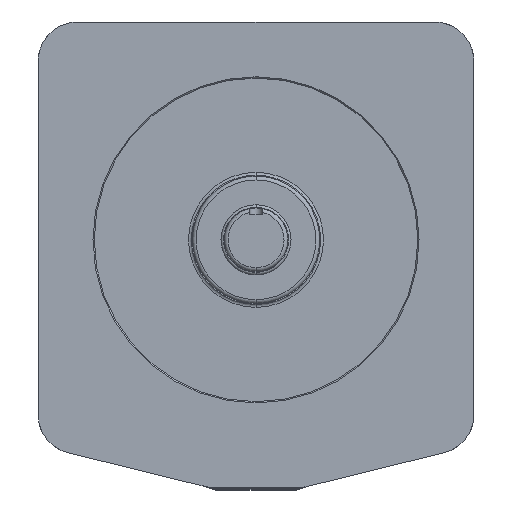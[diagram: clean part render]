
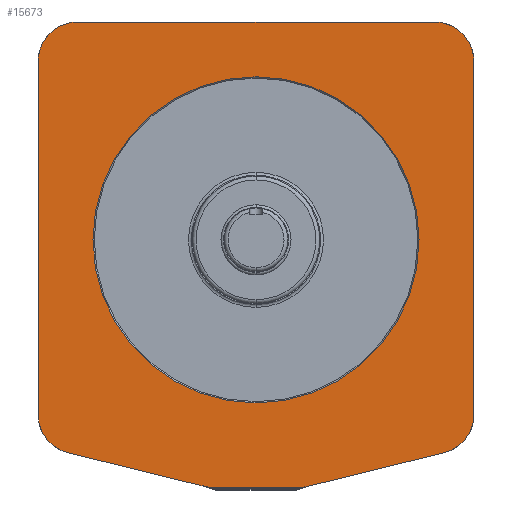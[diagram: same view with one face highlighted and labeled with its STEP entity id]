
A CAD part, top view. The second image highlights one B-rep face of the part: STEP entity #15673.
In plain terms, the highlighted planar face has unit normal (0, 0, 1).
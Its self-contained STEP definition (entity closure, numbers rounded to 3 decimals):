
#262 = CARTESIAN_POINT ( 'NONE',  ( 222., 140.013, 387.5 ) ) ;
#902 = CARTESIAN_POINT ( 'NONE',  ( 191., -170.987, 387.5 ) ) ;
#999 = ORIENTED_EDGE ( 'NONE', *, *, #72728, .F. ) ;
#1435 = LINE ( 'NONE', #30028, #26147 ) ;
#2912 = CARTESIAN_POINT ( 'NONE',  ( -116.195, -147.382, 387.5 ) ) ;
#3344 = CARTESIAN_POINT ( 'NONE',  ( -86.084, 171.013, 387.5 ) ) ;
#3465 = AXIS2_PLACEMENT_3D ( 'NONE', #57867, #86534, #22227 ) ;
#3542 = CIRCLE ( 'NONE', #55955, 31. ) ;
#3881 = VERTEX_POINT ( 'NONE', #62867 ) ;
#4702 = EDGE_CURVE ( 'NONE', #77998, #3881, #84503, .T. ) ;
#5234 = VERTEX_POINT ( 'NONE', #65995 ) ;
#5273 = ORIENTED_EDGE ( 'NONE', *, *, #35435, .F. ) ;
#5525 = ORIENTED_EDGE ( 'NONE', *, *, #43616, .F. ) ;
#7365 = VERTEX_POINT ( 'NONE', #57788 ) ;
#7783 = DIRECTION ( 'NONE',  ( -0.971, -0.239, 0. ) ) ;
#7963 = DIRECTION ( 'NONE',  ( 0., 0., -1. ) ) ;
#8113 = CIRCLE ( 'NONE', #60547, 20. ) ;
#8730 = VERTEX_POINT ( 'NONE', #46924 ) ;
#8940 = CARTESIAN_POINT ( 'NONE',  ( -86.084, 171.013, 387.5 ) ) ;
#9169 = DIRECTION ( 'NONE',  ( 0., 0., 1. ) ) ;
#9850 = ORIENTED_EDGE ( 'NONE', *, *, #10561, .F. ) ;
#10561 = EDGE_CURVE ( 'NONE', #51918, #15587, #51354, .T. ) ;
#10816 = VECTOR ( 'NONE', #83045, 1000. ) ;
#13037 = ORIENTED_EDGE ( 'NONE', *, *, #55356, .F. ) ;
#13524 = ORIENTED_EDGE ( 'NONE', *, *, #48154, .F. ) ;
#15050 = DIRECTION ( 'NONE',  ( 1., 0., 0. ) ) ;
#15587 = VERTEX_POINT ( 'NONE', #55071 ) ;
#15673 = ADVANCED_FACE ( 'NONE', ( #57742, #86415 ), #22105, .T. ) ;
#15754 = DIRECTION ( 'NONE',  ( 0., -1., 0. ) ) ;
#16426 = EDGE_CURVE ( 'NONE', #7365, #8730, #8113, .T. ) ;
#16647 = DIRECTION ( 'NONE',  ( 0., 0., -1. ) ) ;
#18089 = CIRCLE ( 'NONE', #70495, 31. ) ;
#19297 = VERTEX_POINT ( 'NONE', #59313 ) ;
#20192 = CARTESIAN_POINT ( 'NONE',  ( 191., -170.987, 387.5 ) ) ;
#20325 = VECTOR ( 'NONE', #15754, 1000. ) ;
#22105 = PLANE ( 'NONE',  #34951 ) ;
#22206 = VERTEX_POINT ( 'NONE', #79230 ) ;
#22227 = DIRECTION ( 'NONE',  ( 0., 1., 0. ) ) ;
#22628 = DIRECTION ( 'NONE',  ( 0., 0., 1. ) ) ;
#23119 = AXIS2_PLACEMENT_3D ( 'NONE', #89398, #25074, #53689 ) ;
#25074 = DIRECTION ( 'NONE',  ( 0., 0., -1. ) ) ;
#25507 = EDGE_CURVE ( 'NONE', #19297, #5234, #78403, .T. ) ;
#25753 = LINE ( 'NONE', #54366, #10816 ) ;
#25764 = EDGE_CURVE ( 'NONE', #3881, #45777, #3542, .T. ) ;
#25849 = CARTESIAN_POINT ( 'NONE',  ( -86.09, -139.987, 387.5 ) ) ;
#26147 = VECTOR ( 'NONE', #58644, 1000. ) ;
#29067 = LINE ( 'NONE', #57703, #66176 ) ;
#29606 = EDGE_LOOP ( 'NONE', ( #13524, #36924 ) ) ;
#30028 = CARTESIAN_POINT ( 'NONE',  ( -143.149, 37.658, 387.5 ) ) ;
#32455 = VECTOR ( 'NONE', #92316, 1000. ) ;
#33547 = AXIS2_PLACEMENT_3D ( 'NONE', #73447, #9169, #37785 ) ;
#34294 = CARTESIAN_POINT ( 'NONE',  ( -143.149, 37.658, 387.5 ) ) ;
#34951 = AXIS2_PLACEMENT_3D ( 'NONE', #50709, #79343, #15050 ) ;
#35035 = LINE ( 'NONE', #63642, #32455 ) ;
#35435 = EDGE_CURVE ( 'NONE', #35641, #87688, #63553, .T. ) ;
#35633 = ORIENTED_EDGE ( 'NONE', *, *, #25764, .F. ) ;
#35641 = VERTEX_POINT ( 'NONE', #62862 ) ;
#36606 = DIRECTION ( 'NONE',  ( 1., 0., 0. ) ) ;
#36924 = ORIENTED_EDGE ( 'NONE', *, *, #25507, .F. ) ;
#37551 = DIRECTION ( 'NONE',  ( 1., 0., 0. ) ) ;
#37785 = DIRECTION ( 'NONE',  ( -1., 0., 0. ) ) ;
#37951 = AXIS2_PLACEMENT_3D ( 'NONE', #86948, #22628, #51232 ) ;
#37984 = EDGE_CURVE ( 'NONE', #15587, #77998, #18089, .T. ) ;
#38278 = ORIENTED_EDGE ( 'NONE', *, *, #49509, .F. ) ;
#38964 = ORIENTED_EDGE ( 'NONE', *, *, #67126, .F. ) ;
#42740 = CIRCLE ( 'NONE', #54718, 20. ) ;
#43444 = CARTESIAN_POINT ( 'NONE',  ( -123.727, -32.887, 387.5 ) ) ;
#43616 = EDGE_CURVE ( 'NONE', #87688, #85910, #73213, .T. ) ;
#43892 = CIRCLE ( 'NONE', #3465, 31. ) ;
#45231 = DIRECTION ( 'NONE',  ( -1., 0., 0. ) ) ;
#45777 = VERTEX_POINT ( 'NONE', #2912 ) ;
#46402 = VECTOR ( 'NONE', #37551, 1000. ) ;
#46924 = CARTESIAN_POINT ( 'NONE',  ( -143.727, -32.887, 387.5 ) ) ;
#48154 = EDGE_CURVE ( 'NONE', #5234, #19297, #73993, .T. ) ;
#48807 = DIRECTION ( 'NONE',  ( -1., 0., 0. ) ) ;
#49509 = EDGE_CURVE ( 'NONE', #82472, #22206, #42740, .T. ) ;
#50709 = CARTESIAN_POINT ( 'NONE',  ( 191., -139.987, 387.5 ) ) ;
#51232 = DIRECTION ( 'NONE',  ( -1., 0., 0. ) ) ;
#51354 = LINE ( 'NONE', #80015, #20325 ) ;
#51918 = VERTEX_POINT ( 'NONE', #262 ) ;
#53689 = DIRECTION ( 'NONE',  ( -0.971, 0.239, 0. ) ) ;
#54366 = CARTESIAN_POINT ( 'NONE',  ( -143.727, -32.887, 387.5 ) ) ;
#54475 = DIRECTION ( 'NONE',  ( 0., 0., -1. ) ) ;
#54718 = AXIS2_PLACEMENT_3D ( 'NONE', #80944, #16647, #45231 ) ;
#55071 = CARTESIAN_POINT ( 'NONE',  ( 222., -139.987, 387.5 ) ) ;
#55356 = EDGE_CURVE ( 'NONE', #87825, #35641, #1435, .T. ) ;
#55955 = AXIS2_PLACEMENT_3D ( 'NONE', #25849, #54475, #83147 ) ;
#57703 = CARTESIAN_POINT ( 'NONE',  ( -116.195, -147.382, 387.5 ) ) ;
#57742 = FACE_OUTER_BOUND ( 'NONE', #86053, .T. ) ;
#57788 = CARTESIAN_POINT ( 'NONE',  ( -143.149, -37.658, 387.5 ) ) ;
#57867 = CARTESIAN_POINT ( 'NONE',  ( 191., 140.013, 387.5 ) ) ;
#58644 = DIRECTION ( 'NONE',  ( 0.239, 0.971, 0. ) ) ;
#59313 = CARTESIAN_POINT ( 'NONE',  ( -77., 0., 387.5 ) ) ;
#60112 = EDGE_CURVE ( 'NONE', #45777, #7365, #29067, .T. ) ;
#60547 = AXIS2_PLACEMENT_3D ( 'NONE', #43444, #72055, #7783 ) ;
#62862 = CARTESIAN_POINT ( 'NONE',  ( -116.189, 147.409, 387.5 ) ) ;
#62867 = CARTESIAN_POINT ( 'NONE',  ( -86.09, -170.987, 387.5 ) ) ;
#63553 = CIRCLE ( 'NONE', #23119, 31. ) ;
#63642 = CARTESIAN_POINT ( 'NONE',  ( -143.149, 37.658, 387.5 ) ) ;
#65961 = VECTOR ( 'NONE', #48807, 1000. ) ;
#65995 = CARTESIAN_POINT ( 'NONE',  ( 179., 0., 387.5 ) ) ;
#66176 = VECTOR ( 'NONE', #86377, 1000. ) ;
#66255 = EDGE_CURVE ( 'NONE', #8730, #82472, #25753, .T. ) ;
#67126 = EDGE_CURVE ( 'NONE', #85910, #51918, #43892, .T. ) ;
#70495 = AXIS2_PLACEMENT_3D ( 'NONE', #72233, #7963, #36606 ) ;
#71637 = ORIENTED_EDGE ( 'NONE', *, *, #37984, .F. ) ;
#71661 = ORIENTED_EDGE ( 'NONE', *, *, #4702, .F. ) ;
#72055 = DIRECTION ( 'NONE',  ( 0., 0., -1. ) ) ;
#72233 = CARTESIAN_POINT ( 'NONE',  ( 191., -139.987, 387.5 ) ) ;
#72728 = EDGE_CURVE ( 'NONE', #22206, #87825, #35035, .T. ) ;
#73213 = LINE ( 'NONE', #8940, #46402 ) ;
#73447 = CARTESIAN_POINT ( 'NONE',  ( 51., 0., 387.5 ) ) ;
#73993 = CIRCLE ( 'NONE', #33547, 128. ) ;
#77998 = VERTEX_POINT ( 'NONE', #902 ) ;
#78403 = CIRCLE ( 'NONE', #37951, 128. ) ;
#79230 = CARTESIAN_POINT ( 'NONE',  ( -143.149, 37.658, 387.5 ) ) ;
#79343 = DIRECTION ( 'NONE',  ( 0., 0., 1. ) ) ;
#80015 = CARTESIAN_POINT ( 'NONE',  ( 222., 140.013, 387.5 ) ) ;
#80090 = CARTESIAN_POINT ( 'NONE',  ( 191., 171.013, 387.5 ) ) ;
#80565 = ORIENTED_EDGE ( 'NONE', *, *, #66255, .F. ) ;
#80944 = CARTESIAN_POINT ( 'NONE',  ( -123.727, 32.887, 387.5 ) ) ;
#81864 = CARTESIAN_POINT ( 'NONE',  ( -143.727, 32.887, 387.5 ) ) ;
#82091 = ORIENTED_EDGE ( 'NONE', *, *, #60112, .F. ) ;
#82472 = VERTEX_POINT ( 'NONE', #81864 ) ;
#83045 = DIRECTION ( 'NONE',  ( 0., 1., 0. ) ) ;
#83147 = DIRECTION ( 'NONE',  ( 0., -1., 0. ) ) ;
#84503 = LINE ( 'NONE', #20192, #65961 ) ;
#85910 = VERTEX_POINT ( 'NONE', #80090 ) ;
#86029 = ORIENTED_EDGE ( 'NONE', *, *, #16426, .F. ) ;
#86053 = EDGE_LOOP ( 'NONE', ( #9850, #38964, #5525, #5273, #13037, #999, #38278, #80565, #86029, #82091, #35633, #71661, #71637 ) ) ;
#86377 = DIRECTION ( 'NONE',  ( -0.239, 0.971, 0. ) ) ;
#86415 = FACE_BOUND ( 'NONE', #29606, .T. ) ;
#86534 = DIRECTION ( 'NONE',  ( 0., 0., -1. ) ) ;
#86948 = CARTESIAN_POINT ( 'NONE',  ( 51., 0., 387.5 ) ) ;
#87688 = VERTEX_POINT ( 'NONE', #3344 ) ;
#87825 = VERTEX_POINT ( 'NONE', #34294 ) ;
#89398 = CARTESIAN_POINT ( 'NONE',  ( -86.084, 140.013, 387.5 ) ) ;
#92316 = DIRECTION ( 'NONE',  ( 0.239, 0.971, 0. ) ) ;
